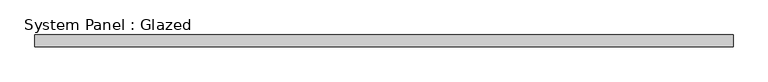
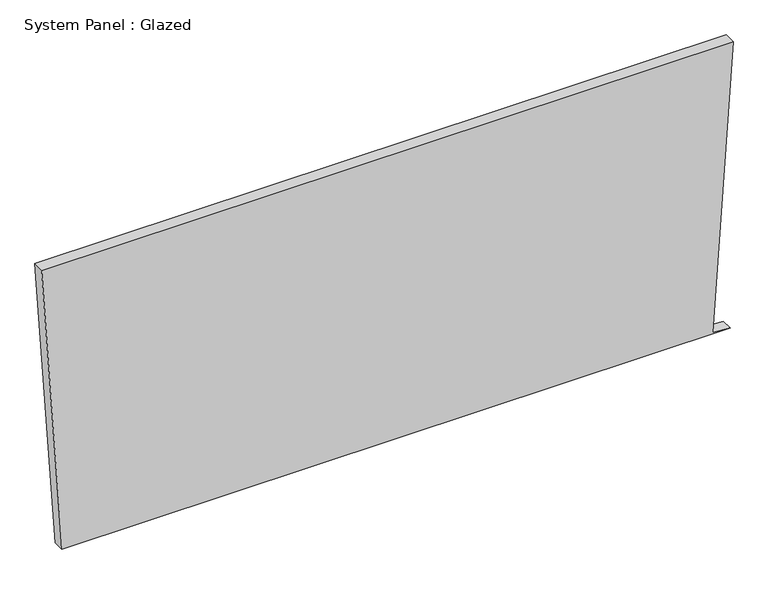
"""IFC4 building model written with IfcOpenShell, lengths in millimetres: plate geometry, System Panel : Glazed."""

from ifc_helpers import new_model, si_unit, frame, origin, place, context, project, spatial, polyline, outline, extrude, source, transform, mapped, element, save


def system_panel_glazed_5ea31307(model_context):
    return source(origin(), model_context, "Body", "SweptSolid", [
        extrude(outline(polyline([(0.0, -715.3185253), (0.000514, 753.5047892), (2.5595049, 715.4908238), (664.3016308, 760.037403), (664.3016308, -760.037403), (0.0, -715.3185253)])), frame((0.0, 19.05, 0.0), z_axis=(0.0, 1.0, 0.0), x_axis=(0.0, 0.0, 1.0)), (0.0, 0.0, 1.0), 25.4),
    ])


if __name__ == "__main__":
    model = new_model("IFC4")
    model_context = context("Model", 3, world=origin())
    ifc_project = project(units=[si_unit("LENGTHUNIT", "METRE", prefix="MILLI")], contexts=[model_context])
    site = spatial("IfcSite", under=ifc_project)
    building = spatial("IfcBuilding", under=site)
    placement = place(None, origin())
    system_panel_glazed_shape = system_panel_glazed_5ea31307(model_context)
    element("IfcPlate", 1, ObjectType="System Panel : Glazed", at=placement, inside=building, context=model_context, shape_type="MappedRepresentation", body=[
        mapped(system_panel_glazed_shape, transform((0.0, 0.0, 0.0), x_axis=(1.0, 0.0, 0.0), y_axis=(0.0, 1.0, 0.0), z_axis=(0.0, 0.0, 1.0))),
    ])
    save(model, "model.ifc")
